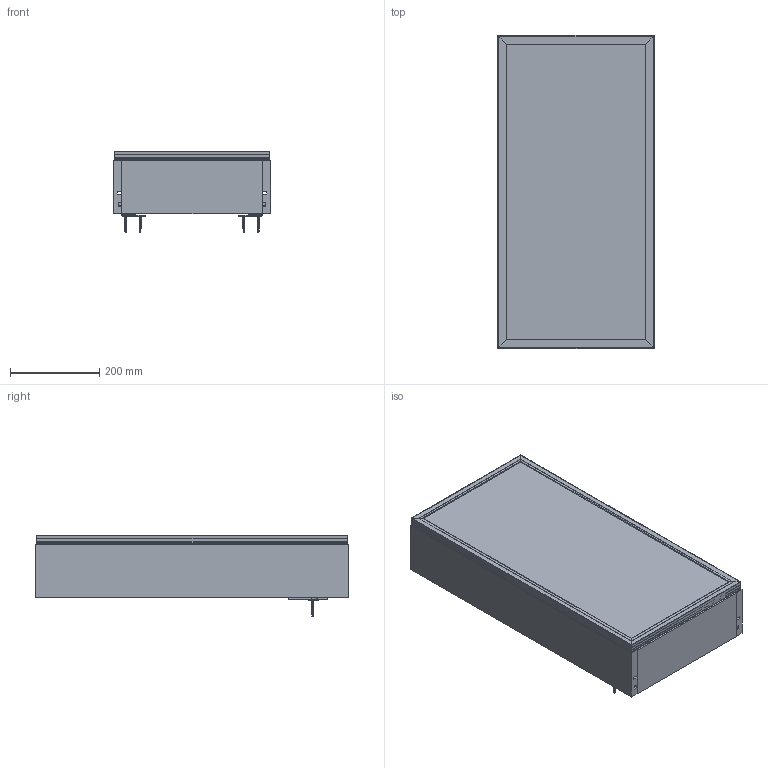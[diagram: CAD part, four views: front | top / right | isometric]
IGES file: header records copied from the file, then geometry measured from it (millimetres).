
Global section: file name: 3D Dosyası,; native system: Autodesk Inventor 2024; preprocessor: unknown; author: pc11; date: 20250709.163551; units: millimetre
Bounding box: 350 x 700 x 182.98 mm (x, y, z)
Volume: 7342136.4 mm3; surface area: 2015523.4 mm2
Topology: 28 solids, 32 shells, 1228 faces, 3532 edges, 2358 vertices
Faces by surface type: bspline 1228
